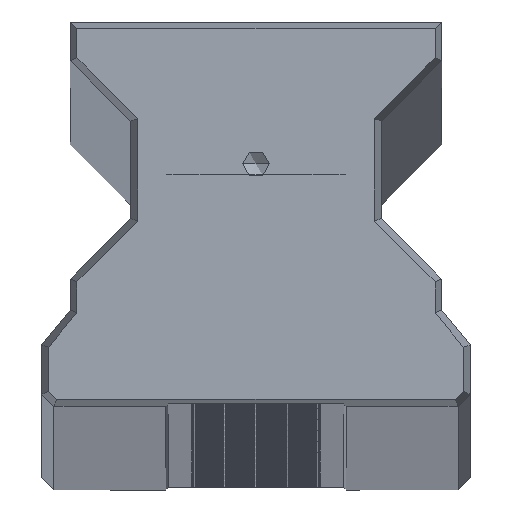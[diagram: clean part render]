
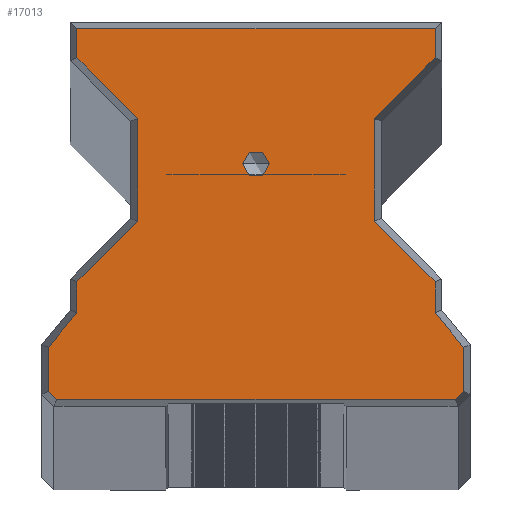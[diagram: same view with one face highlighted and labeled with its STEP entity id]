
A CAD part, top view. The second image highlights one B-rep face of the part: STEP entity #17013.
In plain terms, the highlighted planar face has unit normal (0, 0, 1).
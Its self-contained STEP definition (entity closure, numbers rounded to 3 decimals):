
#6242=CARTESIAN_POINT('',(0.,30.,0.));
#6243=DIRECTION('',(0.,0.,1.));
#6244=DIRECTION('',(-1.,0.,0.));
#6245=AXIS2_PLACEMENT_3D('',#6242,#6243,#6244);
#6247=CARTESIAN_POINT('',(0.,30.,0.));
#6248=DIRECTION('',(0.,0.,1.));
#6249=DIRECTION('',(1.,0.,0.));
#6250=AXIS2_PLACEMENT_3D('',#6247,#6248,#6249);
#6252=DIRECTION('',(1.,0.,0.));
#6253=VECTOR('',#6252,49.296);
#6254=CARTESIAN_POINT('',(-24.648,0.85,0.));
#6255=LINE('',#6254,#6253);
#6256=DIRECTION('',(0.707,-0.707,0.));
#6257=VECTOR('',#6256,1.417);
#6258=CARTESIAN_POINT('',(-25.65,1.852,0.));
#6259=LINE('',#6258,#6257);
#6260=DIRECTION('',(0.,-1.,0.));
#6261=VECTOR('',#6260,5.446);
#6262=CARTESIAN_POINT('',(-25.65,7.298,0.));
#6263=LINE('',#6262,#6261);
#6264=DIRECTION('',(0.631,0.776,0.));
#6265=VECTOR('',#6264,5.548);
#6266=CARTESIAN_POINT('',(-25.65,7.298,0.));
#6267=LINE('',#6266,#6265);
#6268=DIRECTION('',(0.,-1.,0.));
#6269=VECTOR('',#6268,3.795);
#6270=CARTESIAN_POINT('',(-22.15,15.398,0.));
#6271=LINE('',#6270,#6269);
#6272=DIRECTION('',(-0.707,-0.707,0.));
#6273=VECTOR('',#6272,10.607);
#6274=CARTESIAN_POINT('',(-14.65,22.898,0.));
#6275=LINE('',#6274,#6273);
#6276=DIRECTION('',(0.,-1.,0.));
#6277=VECTOR('',#6276,12.704);
#6278=CARTESIAN_POINT('',(-14.65,35.602,0.));
#6279=LINE('',#6278,#6277);
#6280=DIRECTION('',(0.707,-0.707,0.));
#6281=VECTOR('',#6280,10.607);
#6282=CARTESIAN_POINT('',(-22.15,43.102,0.));
#6283=LINE('',#6282,#6281);
#6284=DIRECTION('',(0.,-1.,0.));
#6285=VECTOR('',#6284,3.598);
#6286=CARTESIAN_POINT('',(-22.15,46.7,0.));
#6287=LINE('',#6286,#6285);
#6288=DIRECTION('',(-1.,0.,0.));
#6289=VECTOR('',#6288,44.3);
#6290=CARTESIAN_POINT('',(22.15,46.7,0.));
#6291=LINE('',#6290,#6289);
#6292=DIRECTION('',(0.,1.,0.));
#6293=VECTOR('',#6292,3.598);
#6294=CARTESIAN_POINT('',(22.15,43.102,0.));
#6295=LINE('',#6294,#6293);
#6296=DIRECTION('',(-0.707,-0.707,0.));
#6297=VECTOR('',#6296,10.607);
#6298=CARTESIAN_POINT('',(22.15,43.102,0.));
#6299=LINE('',#6298,#6297);
#6300=DIRECTION('',(0.,1.,0.));
#6301=VECTOR('',#6300,12.704);
#6302=CARTESIAN_POINT('',(14.65,22.898,0.));
#6303=LINE('',#6302,#6301);
#6304=DIRECTION('',(-0.707,0.707,0.));
#6305=VECTOR('',#6304,10.607);
#6306=CARTESIAN_POINT('',(22.15,15.398,0.));
#6307=LINE('',#6306,#6305);
#6308=DIRECTION('',(0.,1.,0.));
#6309=VECTOR('',#6308,3.795);
#6310=CARTESIAN_POINT('',(22.15,11.602,0.));
#6311=LINE('',#6310,#6309);
#6312=DIRECTION('',(-0.631,0.776,0.));
#6313=VECTOR('',#6312,5.548);
#6314=CARTESIAN_POINT('',(25.65,7.298,0.));
#6315=LINE('',#6314,#6313);
#6316=DIRECTION('',(0.,1.,0.));
#6317=VECTOR('',#6316,5.446);
#6318=CARTESIAN_POINT('',(25.65,1.852,0.));
#6319=LINE('',#6318,#6317);
#6320=DIRECTION('',(0.707,0.707,0.));
#6321=VECTOR('',#6320,1.417);
#6322=CARTESIAN_POINT('',(24.648,0.85,0.));
#6323=LINE('',#6322,#6321);
#6540=CARTESIAN_POINT('',(-1.65,30.,0.));
#6541=VERTEX_POINT('',#6540);
#6542=CARTESIAN_POINT('',(1.65,30.,0.));
#6543=VERTEX_POINT('',#6542);
#6746=CARTESIAN_POINT('',(-24.648,0.85,0.));
#6747=CARTESIAN_POINT('',(24.648,0.85,0.));
#6748=VERTEX_POINT('',#6746);
#6749=VERTEX_POINT('',#6747);
#6750=CARTESIAN_POINT('',(25.65,1.852,0.));
#6751=VERTEX_POINT('',#6750);
#6752=CARTESIAN_POINT('',(25.65,7.298,0.));
#6753=VERTEX_POINT('',#6752);
#6754=CARTESIAN_POINT('',(22.15,11.602,0.));
#6755=VERTEX_POINT('',#6754);
#6756=CARTESIAN_POINT('',(22.15,15.398,0.));
#6757=VERTEX_POINT('',#6756);
#6758=CARTESIAN_POINT('',(14.65,22.898,0.));
#6759=VERTEX_POINT('',#6758);
#6760=CARTESIAN_POINT('',(14.65,35.602,0.));
#6761=VERTEX_POINT('',#6760);
#6762=CARTESIAN_POINT('',(22.15,43.102,0.));
#6763=VERTEX_POINT('',#6762);
#6764=CARTESIAN_POINT('',(22.15,46.7,0.));
#6765=VERTEX_POINT('',#6764);
#6766=CARTESIAN_POINT('',(-22.15,46.7,0.));
#6767=VERTEX_POINT('',#6766);
#6768=CARTESIAN_POINT('',(-22.15,43.102,0.));
#6769=VERTEX_POINT('',#6768);
#6770=CARTESIAN_POINT('',(-14.65,35.602,0.));
#6771=VERTEX_POINT('',#6770);
#6772=CARTESIAN_POINT('',(-14.65,22.898,0.));
#6773=VERTEX_POINT('',#6772);
#6774=CARTESIAN_POINT('',(-22.15,15.398,0.));
#6775=VERTEX_POINT('',#6774);
#6776=CARTESIAN_POINT('',(-22.15,11.602,0.));
#6777=VERTEX_POINT('',#6776);
#6778=CARTESIAN_POINT('',(-25.65,7.298,0.));
#6779=VERTEX_POINT('',#6778);
#8266=CARTESIAN_POINT('',(-25.65,1.852,0.));
#8267=VERTEX_POINT('',#8266);
#16965=CARTESIAN_POINT('',(0.,0.,0.));
#16966=DIRECTION('',(0.,0.,1.));
#16967=DIRECTION('',(1.,0.,0.));
#16968=AXIS2_PLACEMENT_3D('',#16965,#16966,#16967);
#16969=PLANE('',#16968);
#16971=ORIENTED_EDGE('',*,*,#16970,.F.);
#16973=ORIENTED_EDGE('',*,*,#16972,.F.);
#16975=ORIENTED_EDGE('',*,*,#16974,.F.);
#16977=ORIENTED_EDGE('',*,*,#16976,.T.);
#16979=ORIENTED_EDGE('',*,*,#16978,.F.);
#16981=ORIENTED_EDGE('',*,*,#16980,.F.);
#16983=ORIENTED_EDGE('',*,*,#16982,.F.);
#16984=ORIENTED_EDGE('',*,*,#16955,.F.);
#16986=ORIENTED_EDGE('',*,*,#16985,.F.);
#16988=ORIENTED_EDGE('',*,*,#16987,.F.);
#16990=ORIENTED_EDGE('',*,*,#16989,.F.);
#16992=ORIENTED_EDGE('',*,*,#16991,.T.);
#16994=ORIENTED_EDGE('',*,*,#16993,.F.);
#16996=ORIENTED_EDGE('',*,*,#16995,.F.);
#16998=ORIENTED_EDGE('',*,*,#16997,.F.);
#17000=ORIENTED_EDGE('',*,*,#16999,.F.);
#17002=ORIENTED_EDGE('',*,*,#17001,.F.);
#17004=ORIENTED_EDGE('',*,*,#17003,.F.);
#17005=EDGE_LOOP('',(#16971,#16973,#16975,#16977,#16979,#16981,#16983,#16984,
#16986,#16988,#16990,#16992,#16994,#16996,#16998,#17000,#17002,#17004));
#17006=FACE_OUTER_BOUND('',#17005,.F.);
#17008=ORIENTED_EDGE('',*,*,#17007,.T.);
#17010=ORIENTED_EDGE('',*,*,#17009,.T.);
#17011=EDGE_LOOP('',(#17008,#17010));
#17012=FACE_BOUND('',#17011,.F.);
#6246=CIRCLE('',#6245,1.65);
#6251=CIRCLE('',#6250,1.65);
#16955=EDGE_CURVE('',#6769,#6771,#6283,.T.);
#16970=EDGE_CURVE('',#6748,#6749,#6255,.T.);
#16972=EDGE_CURVE('',#8267,#6748,#6259,.T.);
#16974=EDGE_CURVE('',#6779,#8267,#6263,.T.);
#16976=EDGE_CURVE('',#6779,#6777,#6267,.T.);
#16978=EDGE_CURVE('',#6775,#6777,#6271,.T.);
#16980=EDGE_CURVE('',#6773,#6775,#6275,.T.);
#16982=EDGE_CURVE('',#6771,#6773,#6279,.T.);
#16985=EDGE_CURVE('',#6767,#6769,#6287,.T.);
#16987=EDGE_CURVE('',#6765,#6767,#6291,.T.);
#16989=EDGE_CURVE('',#6763,#6765,#6295,.T.);
#16991=EDGE_CURVE('',#6763,#6761,#6299,.T.);
#16993=EDGE_CURVE('',#6759,#6761,#6303,.T.);
#16995=EDGE_CURVE('',#6757,#6759,#6307,.T.);
#16997=EDGE_CURVE('',#6755,#6757,#6311,.T.);
#16999=EDGE_CURVE('',#6753,#6755,#6315,.T.);
#17001=EDGE_CURVE('',#6751,#6753,#6319,.T.);
#17003=EDGE_CURVE('',#6749,#6751,#6323,.T.);
#17007=EDGE_CURVE('',#6541,#6543,#6246,.T.);
#17009=EDGE_CURVE('',#6543,#6541,#6251,.T.);
#17013=ADVANCED_FACE('',(#17006,#17012),#16969,.T.);
